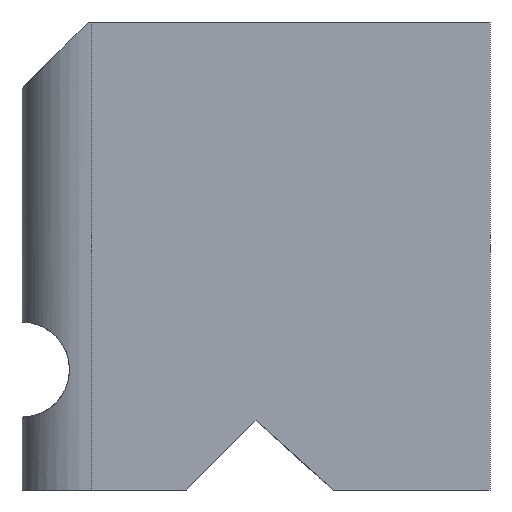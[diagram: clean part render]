
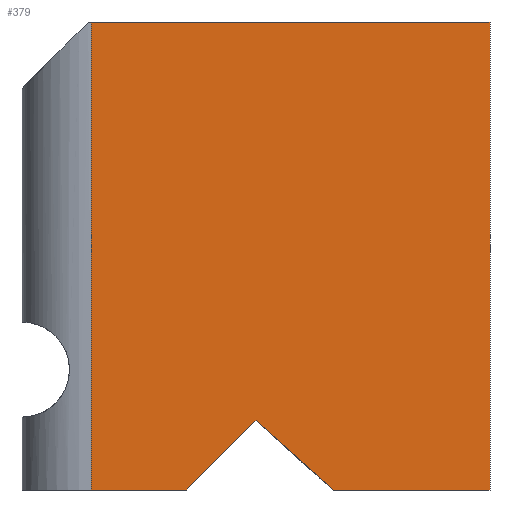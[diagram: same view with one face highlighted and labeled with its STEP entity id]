
A CAD part, front view. The second image highlights one B-rep face of the part: STEP entity #379.
In plain terms, the highlighted planar face has unit normal (0, -1, 0).
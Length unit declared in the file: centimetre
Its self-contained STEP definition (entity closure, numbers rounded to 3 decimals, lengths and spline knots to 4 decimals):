
#15 = VECTOR ( 'NONE', #900, 100. ) ;
#29 = CARTESIAN_POINT ( 'NONE',  ( 500., 0., 147.9575 ) ) ;
#52 = VERTEX_POINT ( 'NONE', #750 ) ;
#71 = LINE ( 'NONE', #593, #350 ) ;
#93 = CARTESIAN_POINT ( 'NONE',  ( 148.0018, 0., 0. ) ) ;
#113 = CARTESIAN_POINT ( 'NONE',  ( 664.6663, 0., 0. ) ) ;
#125 = VECTOR ( 'NONE', #301, 100. ) ;
#198 = CARTESIAN_POINT ( 'NONE',  ( 0., 0., 1000. ) ) ;
#200 = LINE ( 'NONE', #29, #15 ) ;
#202 = VECTOR ( 'NONE', #1073, 100. ) ;
#224 = VECTOR ( 'NONE', #971, 100. ) ;
#226 = EDGE_CURVE ( 'NONE', #365, #282, #71, .T. ) ;
#259 = ORIENTED_EDGE ( 'NONE', *, *, #762, .F. ) ;
#281 = CARTESIAN_POINT ( 'NONE',  ( 0., 0., 0. ) ) ;
#282 = VERTEX_POINT ( 'NONE', #93 ) ;
#295 = VECTOR ( 'NONE', #636, 100. ) ;
#300 = PLANE ( 'NONE',  #728 ) ;
#301 = DIRECTION ( 'NONE',  ( -0.707, 0., -0.707 ) ) ;
#302 = LINE ( 'NONE', #992, #295 ) ;
#318 = DIRECTION ( 'NONE',  ( 1., 0., 0. ) ) ;
#350 = VECTOR ( 'NONE', #930, 100. ) ;
#365 = VERTEX_POINT ( 'NONE', #743 ) ;
#379 = ADVANCED_FACE ( 'NONE', ( #1054 ), #300, .F. ) ;
#381 = CARTESIAN_POINT ( 'NONE',  ( 1000., 0., 1000. ) ) ;
#386 = CARTESIAN_POINT ( 'NONE',  ( 352.0425, 0., 0. ) ) ;
#395 = EDGE_CURVE ( 'NONE', #282, #52, #891, .T. ) ;
#432 = VERTEX_POINT ( 'NONE', #820 ) ;
#473 = EDGE_CURVE ( 'NONE', #365, #432, #490, .T. ) ;
#475 = LINE ( 'NONE', #386, #125 ) ;
#490 = LINE ( 'NONE', #769, #831 ) ;
#547 = ORIENTED_EDGE ( 'NONE', *, *, #952, .F. ) ;
#552 = ORIENTED_EDGE ( 'NONE', *, *, #226, .T. ) ;
#593 = CARTESIAN_POINT ( 'NONE',  ( 148.0018, 0., 1000. ) ) ;
#596 = VERTEX_POINT ( 'NONE', #1033 ) ;
#636 = DIRECTION ( 'NONE',  ( 1., 0., 0. ) ) ;
#645 = DIRECTION ( 'NONE',  ( 0., 1., 0. ) ) ;
#679 = EDGE_LOOP ( 'NONE', ( #845, #259, #949, #770, #547, #1123, #552 ) ) ;
#722 = DIRECTION ( 'NONE',  ( 0., 0., 1. ) ) ;
#728 = AXIS2_PLACEMENT_3D ( 'NONE', #198, #645, #722 ) ;
#735 = LINE ( 'NONE', #381, #202 ) ;
#743 = CARTESIAN_POINT ( 'NONE',  ( 148.0018, 0., 1000. ) ) ;
#750 = CARTESIAN_POINT ( 'NONE',  ( 352.0425, 0., 0. ) ) ;
#758 = VERTEX_POINT ( 'NONE', #1077 ) ;
#762 = EDGE_CURVE ( 'NONE', #758, #52, #475, .T. ) ;
#769 = CARTESIAN_POINT ( 'NONE',  ( 0., 0., 1000. ) ) ;
#770 = ORIENTED_EDGE ( 'NONE', *, *, #950, .T. ) ;
#796 = EDGE_CURVE ( 'NONE', #807, #758, #200, .T. ) ;
#807 = VERTEX_POINT ( 'NONE', #113 ) ;
#820 = CARTESIAN_POINT ( 'NONE',  ( 1000., 0., 1000. ) ) ;
#831 = VECTOR ( 'NONE', #318, 100. ) ;
#845 = ORIENTED_EDGE ( 'NONE', *, *, #395, .T. ) ;
#891 = LINE ( 'NONE', #281, #224 ) ;
#900 = DIRECTION ( 'NONE',  ( -0.744, 0., 0.668 ) ) ;
#930 = DIRECTION ( 'NONE',  ( 0., 0., -1. ) ) ;
#949 = ORIENTED_EDGE ( 'NONE', *, *, #796, .F. ) ;
#950 = EDGE_CURVE ( 'NONE', #807, #596, #302, .T. ) ;
#952 = EDGE_CURVE ( 'NONE', #432, #596, #735, .T. ) ;
#971 = DIRECTION ( 'NONE',  ( 1., 0., 0. ) ) ;
#992 = CARTESIAN_POINT ( 'NONE',  ( 0., 0., 0. ) ) ;
#1033 = CARTESIAN_POINT ( 'NONE',  ( 1000., 0., 0. ) ) ;
#1054 = FACE_OUTER_BOUND ( 'NONE', #679, .T. ) ;
#1073 = DIRECTION ( 'NONE',  ( 0., 0., -1. ) ) ;
#1077 = CARTESIAN_POINT ( 'NONE',  ( 500., 0., 147.9575 ) ) ;
#1123 = ORIENTED_EDGE ( 'NONE', *, *, #473, .F. ) ;
